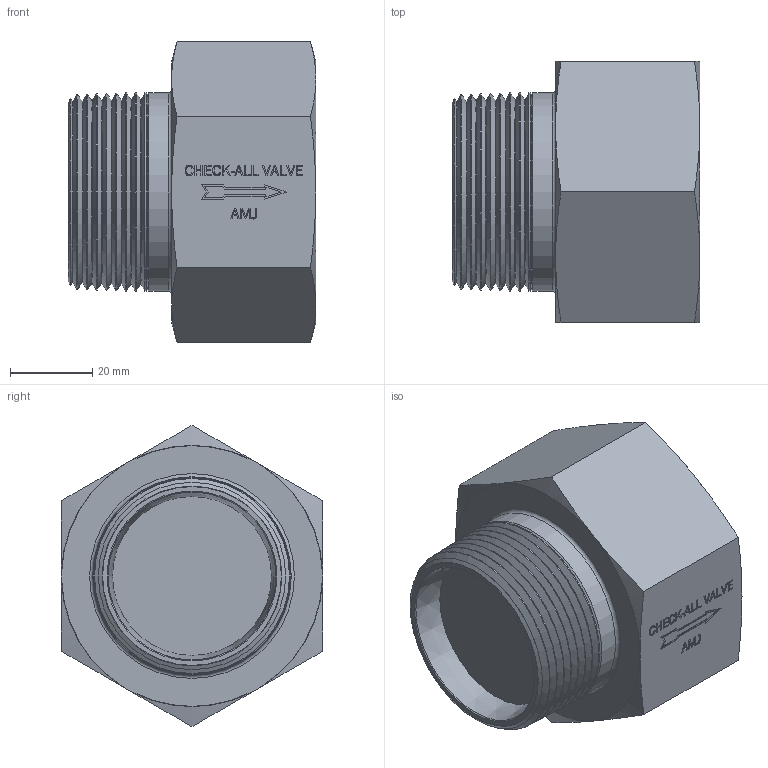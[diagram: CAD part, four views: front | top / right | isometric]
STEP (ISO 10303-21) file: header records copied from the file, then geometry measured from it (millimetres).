
FILE_DESCRIPTION(/* description */ ('Unknown'),/* implementation_level */ '2;1');
FILE_NAME(/* name */ 'AMJXXOR.500XX-WEB',/* time_stamp */ '2022-10-03T08:52:03-05:00',/* author */ ('Unknown'),/* organization */ ('Unknown'),/* preprocessor_version */ 'ST-DEVELOPER v18.102',/* originating_system */ 'Solid Edge',/* authorisation */ 'Unknown');
FILE_SCHEMA (('AUTOMOTIVE_DESIGN {1 0 10303 214 3 1 1}'));
Length unit declared in the file: inch
Products named in the file (1): AMJXXOR.500XX-WEB
Bounding box: 60.25 x 63.5 x 73.32 mm (x, y, z)
Volume: 129641.4 mm3; surface area: 26715.1 mm2
Topology: 1 solids, 2 shells, 331 faces, 816 edges, 514 vertices
Faces by surface type: plane 195, cone 78, cylinder 35, torus 17, bspline 6
Full cylindrical faces by diameter (mm): 22.606 x1, 27 x1, 37.719 x1, 44.071 x5, 48.26 x3
Entity records: 11550 total; most frequent: CARTESIAN_POINT 2298, ORIENTED_EDGE 1422, DIRECTION 1230, EDGE_CURVE 711, VERTEX_POINT 491, EDGE_LOOP 440, FACE_BOUND 440, AXIS2_PLACEMENT_3D 437
